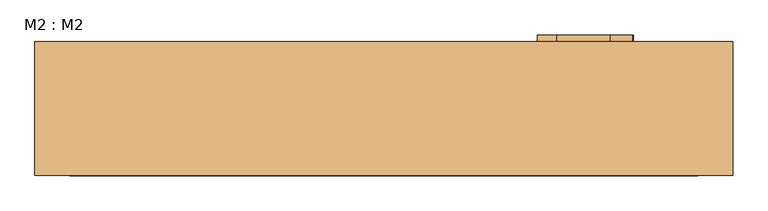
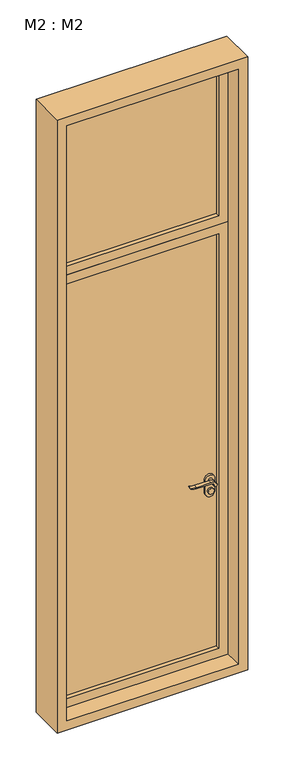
"""IFC4 building model written with IfcOpenShell, lengths in millimetres: door geometry, M2 : M2."""

import ifcopenshell
import ifcopenshell.guid

model = None  # the IFC model being written
_history = None  # IfcOwnerHistory: only IFC2X3 demands one
_inside = {}  # id of a spatial element -> (the spatial element, [elements in it])
_under = {}  # id of a project, library or spatial element -> (it, [spatial elements below it])
_declared = {}  # id of a project -> (the project, [libraries it declares])
_typed = {}  # id of a type object -> (the type object, [elements of that type])
_made_of = {}  # id of a material, layer set ... -> (it, [elements and type objects made of it])


def new_model(schema):
    """Start an empty IFC model of exactly this schema.

    Asked for "IFC4X3", IfcOpenShell would pick the latest addendum, in which some entities
    have other attributes; the version numbers below select the first issue.
    IFC2X3 requires an IfcOwnerHistory on every rooted entity: one is made here for all.
    """
    global model, _history
    if schema == "IFC4X3":
        model = ifcopenshell.file(schema_version=(4, 3, 0, 0))
    else:
        model = ifcopenshell.file(schema=schema)
    _inside.clear()
    _under.clear()
    _declared.clear()
    _typed.clear()
    _made_of.clear()
    _history = None
    if model.schema == "IFC2X3":
        org = make("IfcOrganization", Name="unknown")
        user = make(
            "IfcPersonAndOrganization",
            ThePerson=make("IfcPerson", FamilyName="unknown"),
            TheOrganization=org,
        )
        app = make(
            "IfcApplication",
            ApplicationDeveloper=org,
            Version="unknown",
            ApplicationFullName="unknown",
            ApplicationIdentifier="unknown",
        )
        _history = make(
            "IfcOwnerHistory",
            OwningUser=user,
            OwningApplication=app,
            ChangeAction="ADDED",
            CreationDate=0,
        )
    return model


def make(cls, **values):
    """One entity of the class cls with the attributes given. An attribute that is None is left unset."""
    return model.create_entity(
        cls, **{name: value for name, value in values.items() if value is not None}
    )


def rooted(cls, **values):
    """An entity with a GlobalId (a new one), such as an element, a storey or a relation."""
    return make(cls, GlobalId=ifcopenshell.guid.new(), OwnerHistory=_history, **values)


def si_unit(unit_type, name, prefix=None):
    """IfcSIUnit, for example si_unit("LENGTHUNIT", "METRE", prefix="MILLI")."""
    return make("IfcSIUnit", UnitType=unit_type, Prefix=prefix, Name=name)


def assignment(units):
    """IfcUnitAssignment: the units of a project."""
    return None if units is None else make("IfcUnitAssignment", Units=units)


def point(xyz):
    """IfcCartesianPoint."""
    return None if xyz is None else make("IfcCartesianPoint", Coordinates=xyz)


def direction(xyz):
    """IfcDirection."""
    return None if xyz is None else make("IfcDirection", DirectionRatios=xyz)


def frame(location, z_axis=None, x_axis=None):
    """IfcAxis2Placement3D, a coordinate frame: its origin and axes. An axis left out is left unset."""
    return make(
        "IfcAxis2Placement3D",
        Location=point(location),
        Axis=direction(z_axis),
        RefDirection=direction(x_axis),
    )


def frame_2d(location, x_axis=None):
    """IfcAxis2Placement2D, a coordinate frame in the plane: its origin and x axis."""
    return make(
        "IfcAxis2Placement2D", Location=point(location), RefDirection=direction(x_axis)
    )


def origin():
    """The frame at (0, 0, 0) with its axes left unset."""
    return frame((0.0, 0.0, 0.0))


def place(relative_to, where):
    """IfcLocalPlacement: puts the frame where relative to a parent placement (None: the world)."""
    return make(
        "IfcLocalPlacement", PlacementRelTo=relative_to, RelativePlacement=where
    )


def context(
    kind, dimensions, precision=None, world=None, true_north=None, identifier=None
):
    """IfcGeometricRepresentationContext, for example the 3D "Model" context."""
    return make(
        "IfcGeometricRepresentationContext",
        ContextIdentifier=identifier,
        ContextType=kind,
        CoordinateSpaceDimension=dimensions,
        Precision=precision,
        WorldCoordinateSystem=world,
        TrueNorth=true_north,
    )


def project(units=None, contexts=None):
    """IfcProject with its units and contexts."""
    return rooted(
        "IfcProject",
        Name="project",
        RepresentationContexts=contexts,
        UnitsInContext=assignment(units),
    )


def spatial(cls, under=None, at=None, **own):
    """A site, building, storey or space (cls), placed at a placement, below another one or the project."""
    s = rooted(cls, ObjectPlacement=at, **own)
    if under is not None:
        _under.setdefault(under.id(), (under, []))[1].append(s)
    return s


def polyline(points):
    """IfcPolyline through the points."""
    return make("IfcPolyline", Points=[point(p) for p in points])


def circle_curve(where, radius):
    """IfcCircle in the frame where."""
    return make("IfcCircle", Position=where, Radius=radius)


def trimmed(basis, trim1, trim2, sense, master):
    """IfcTrimmedCurve: the piece of a basis curve between two trims."""
    return make(
        "IfcTrimmedCurve",
        BasisCurve=basis,
        Trim1=trim1,
        Trim2=trim2,
        SenseAgreement=sense,
        MasterRepresentation=master,
    )


def segment(curve, same_sense, transition):
    """IfcCompositeCurveSegment."""
    return make(
        "IfcCompositeCurveSegment",
        Transition=transition,
        SameSense=same_sense,
        ParentCurve=curve,
    )


def composite_curve(segments, self_intersect=None):
    """IfcCompositeCurve: segments joined end to end."""
    return make("IfcCompositeCurve", Segments=segments, SelfIntersect=self_intersect)


def outline(outer, holes=None, kind="AREA"):
    """IfcArbitraryClosedProfileDef: a profile drawn as a closed curve; with holes, ...WithVoids."""
    if holes is None:
        return make("IfcArbitraryClosedProfileDef", ProfileType=kind, OuterCurve=outer)
    return make(
        "IfcArbitraryProfileDefWithVoids",
        ProfileType=kind,
        OuterCurve=outer,
        InnerCurves=holes,
    )


def extrude(swept, where, along, depth):
    """IfcExtrudedAreaSolid: the profile swept, set in the frame where, extruded along a direction by depth."""
    return make(
        "IfcExtrudedAreaSolid",
        SweptArea=swept,
        Position=where,
        ExtrudedDirection=direction(along),
        Depth=depth,
    )


def shape(context_of_items, identifier, shape_type, items):
    """IfcShapeRepresentation: the items that make up one representation, for example the "Body"."""
    return make(
        "IfcShapeRepresentation",
        ContextOfItems=context_of_items,
        RepresentationIdentifier=identifier,
        RepresentationType=shape_type,
        Items=items,
    )


def source(mapping_origin, context_of_items, identifier, shape_type, items):
    """IfcRepresentationMap: a shape defined once, which mapped items show again and again."""
    return make(
        "IfcRepresentationMap",
        MappingOrigin=mapping_origin,
        MappedRepresentation=shape(context_of_items, identifier, shape_type, items),
    )


def transform(
    local_origin,
    x_axis=None,
    y_axis=None,
    z_axis=None,
    scale=None,
    scale2=None,
    scale3=None,
    uniform=True,
):
    """IfcCartesianTransformationOperator3D, or its non-uniform kind. x_axis, y_axis, z_axis: its Axis1, 2, 3."""
    if uniform:
        return make(
            "IfcCartesianTransformationOperator3D",
            Axis1=direction(x_axis),
            Axis2=direction(y_axis),
            LocalOrigin=point(local_origin),
            Scale=scale,
            Axis3=direction(z_axis),
        )
    return make(
        "IfcCartesianTransformationOperator3DnonUniform",
        Axis1=direction(x_axis),
        Axis2=direction(y_axis),
        LocalOrigin=point(local_origin),
        Scale=scale,
        Axis3=direction(z_axis),
        Scale2=scale2,
        Scale3=scale3,
    )


def mapped(mapping_source, mapping_target):
    """IfcMappedItem: shows the shape of a source again, moved by a transform."""
    return make(
        "IfcMappedItem", MappingSource=mapping_source, MappingTarget=mapping_target
    )


def made_of(thing, what):
    """Note that an element or type object is made of a material, layer set ...; save() writes the relation."""
    if what is not None:
        _made_of.setdefault(what.id(), (what, []))[1].append(thing)
    return thing


def element(
    cls,
    number,
    at=None,
    inside=None,
    cuts=None,
    type_object=None,
    material=None,
    context=None,
    identifier="Body",
    shape_type=None,
    held_by="IfcProductDefinitionShape",
    body=None,
    shapes=None,
    **own,
):
    """One element of the class cls, such as IfcWall. Its Tag is "e" and its number.

    at: its placement. inside: the storey or other place that contains it. cuts: it is an
    opening in that element (IfcRelVoidsElement). A single representation is given by context,
    identifier, shape_type and body (its items); several are given by shapes. held_by: the class
    of the entity that holds the representations. save() writes the other relations.
    """
    e = rooted(cls, Tag="e%d" % number, ObjectPlacement=at, **own)
    if body is not None:
        shapes = [shape(context, identifier, shape_type, body)]
    if shapes is not None:
        e.Representation = make(held_by, Representations=shapes)
    if inside is not None:
        _inside.setdefault(inside.id(), (inside, []))[1].append(e)
    if cuts is not None:
        rooted(
            "IfcRelVoidsElement", RelatingBuildingElement=cuts, RelatedOpeningElement=e
        )
    if type_object is not None:
        _typed.setdefault(type_object.id(), (type_object, []))[1].append(e)
    return made_of(e, material)


def aggregate(whole, parts):
    """IfcRelAggregates: a whole, such as a stair, and the parts it consists of."""
    return rooted("IfcRelAggregates", RelatingObject=whole, RelatedObjects=parts)


def save(model, path):
    """Write the relations noted so far, then the file.

    IfcRelAggregates (storeys below a building ...), IfcRelContainedInSpatialStructure (elements
    in a storey), IfcRelDefinesByType, IfcRelAssociatesMaterial and IfcRelDeclares: one each for
    every whole, place, type object, material and project.
    """
    for whole, parts in _under.values():
        aggregate(whole, parts)
    for where, things in _inside.values():
        rooted(
            "IfcRelContainedInSpatialStructure",
            RelatedElements=things,
            RelatingStructure=where,
        )
    for kind, things in _typed.values():
        rooted("IfcRelDefinesByType", RelatedObjects=things, RelatingType=kind)
    for what, things in _made_of.values():
        rooted("IfcRelAssociatesMaterial", RelatedObjects=things, RelatingMaterial=what)
    for by, libraries in _declared.values():
        rooted("IfcRelDeclares", RelatingContext=by, RelatedDefinitions=libraries)
    model.write(path)


def m2_m2_a1934b10(model_context):
    return source(origin(), model_context, "Body", "SweptSolid", [
        extrude(outline(composite_curve([segment(trimmed(circle_curve(frame_2d((1000.0, 350.0)), 15.0), [point((1000.0, 335.0))], [point((1000.0, 365.0))], False, "CARTESIAN"), True, "CONTINUOUS"), segment(trimmed(circle_curve(frame_2d((1000.0, 350.0)), 15.0), [point((1000.0, 365.0))], [point((1000.0, 335.0))], False, "CARTESIAN"), True, "CONTINUOUS")], self_intersect=False)), frame((0.0, 35.0, 0.0), z_axis=(0.0, 1.0, 0.0), x_axis=(0.0, 0.0, 1.0)), (0.0, 0.0, 1.0), 10.0),
        extrude(outline(composite_curve([segment(trimmed(circle_curve(frame_2d((1000.0, 350.0)), 15.0), [point((1000.0, 335.0))], [point((1000.0, 365.0))], False, "CARTESIAN"), True, "CONTINUOUS"), segment(trimmed(circle_curve(frame_2d((1000.0, 350.0)), 15.0), [point((1000.0, 365.0))], [point((1000.0, 335.0))], False, "CARTESIAN"), True, "CONTINUOUS")], self_intersect=False)), frame((0.0, -45.0, 0.0), z_axis=(0.0, 1.0, 0.0), x_axis=(0.0, 0.0, 1.0)), (0.0, 0.0, 1.0), 10.0),
        extrude(outline(composite_curve([segment(trimmed(circle_curve(frame_2d((1042.7555521, 326.3324871)), 37.2832219), [point((1064.6523287, 356.5081363))], [point((1080.0, 324.6325667))], False, "CARTESIAN"), True, "CONTINUOUS"), segment(polyline([(1080.0, 324.6325667), (1080.0, 248.3564091)]), True, "CONTINUOUS"), segment(trimmed(circle_curve(frame_2d((1163.2850638, 248.4227909)), 83.2850902), [point((1080.0, 248.3564091))], [point((1085.0, 220.0))], True, "CARTESIAN"), True, "CONTINUOUS"), segment(polyline([(1085.0, 220.0), (1082.2135558, 220.0)]), True, "CONTINUOUS"), segment(trimmed(circle_curve(frame_2d((1132.2709207, 251.9396612)), 59.3791355), [point((1082.2135558, 220.0))], [point((1073.0, 248.3564091))], False, "CARTESIAN"), True, "CONTINUOUS"), segment(polyline([(1073.0, 248.3564091), (1073.0, 324.6138099)]), True, "CONTINUOUS"), segment(trimmed(circle_curve(frame_2d((1054.8738613, 324.6138099)), 18.1261387), [point((1073.0, 324.6138099))], [point((1060.0, 342.0))], True, "CARTESIAN"), True, "CONTINUOUS"), segment(trimmed(circle_curve(frame_2d((1060.0, 350.0)), 8.0), [point((1060.0, 342.0))], [point((1064.6523287, 356.5081363))], False, "CARTESIAN"), True, "CONTINUOUS")], self_intersect=False)), frame((0.0, 65.0, 0.0), z_axis=(0.0, 1.0, 0.0), x_axis=(0.0, 0.0, 1.0)), (0.0, 0.0, 1.0), 20.0),
        extrude(outline(composite_curve([segment(trimmed(circle_curve(frame_2d((1060.0, 350.0)), 8.0), [point((1059.9999903, 342.0))], [point((1064.6523287, 356.5081363))], False, "CARTESIAN"), True, "CONTINUOUS"), segment(trimmed(circle_curve(frame_2d((1042.7555521, 326.3324871)), 37.2832219), [point((1064.6523287, 356.5081363))], [point((1080.0, 324.6325667))], False, "CARTESIAN"), True, "CONTINUOUS"), segment(polyline([(1080.0, 324.6325667), (1080.0, 248.3564091)]), True, "CONTINUOUS"), segment(trimmed(circle_curve(frame_2d((1163.2850638, 248.4227909)), 83.2850902), [point((1080.0, 248.3564091))], [point((1085.0, 220.0))], True, "CARTESIAN"), True, "CONTINUOUS"), segment(polyline([(1085.0, 220.0), (1082.2135558, 220.0)]), True, "CONTINUOUS"), segment(trimmed(circle_curve(frame_2d((1132.2709207, 251.9396612)), 59.3791355), [point((1082.2135558, 220.0))], [point((1073.0, 248.3564091))], False, "CARTESIAN"), True, "CONTINUOUS"), segment(polyline([(1073.0, 248.3564091), (1073.0, 324.6138122)]), True, "CONTINUOUS"), segment(trimmed(circle_curve(frame_2d((1054.8738682, 324.6138122)), 18.1261318), [point((1073.0, 324.6138122))], [point((1059.9999903, 342.0))], True, "CARTESIAN"), True, "CONTINUOUS")], self_intersect=False)), frame((0.0, -85.0, 0.0), z_axis=(0.0, 1.0, 0.0), x_axis=(0.0, 0.0, 1.0)), (0.0, 0.0, 1.0), 20.0),
        extrude(outline(composite_curve([segment(trimmed(circle_curve(frame_2d((1060.0, 350.0)), 8.0), [point((1060.0, 342.0))], [point((1060.0, 358.0))], False, "CARTESIAN"), True, "CONTINUOUS"), segment(trimmed(circle_curve(frame_2d((1060.0, 350.0)), 8.0), [point((1060.0, 358.0))], [point((1060.0, 342.0))], False, "CARTESIAN"), True, "CONTINUOUS")], self_intersect=False)), frame((0.0, 35.0, 0.0), z_axis=(0.0, 1.0, 0.0), x_axis=(0.0, 0.0, 1.0)), (0.0, 0.0, 1.0), 30.0),
        extrude(outline(composite_curve([segment(trimmed(circle_curve(frame_2d((1060.0, 350.0)), 8.0), [point((1060.0, 342.0))], [point((1060.0, 358.0))], False, "CARTESIAN"), True, "CONTINUOUS"), segment(trimmed(circle_curve(frame_2d((1060.0, 350.0)), 8.0), [point((1060.0, 358.0))], [point((1060.0, 342.0))], False, "CARTESIAN"), True, "CONTINUOUS")], self_intersect=False)), frame((0.0, -65.0, 0.0), z_axis=(0.0, 1.0, 0.0), x_axis=(0.0, 0.0, 1.0)), (0.0, 0.0, 1.0), 30.0),
        extrude(outline(composite_curve([segment(polyline([(990.0, 375.0), (1060.0, 375.0)]), True, "CONTINUOUS"), segment(trimmed(circle_curve(frame_2d((1060.0, 350.0)), 25.0), [point((1060.0, 375.0))], [point((1060.0, 325.0))], False, "CARTESIAN"), True, "CONTINUOUS"), segment(polyline([(1060.0, 325.0), (990.0, 325.0)]), True, "CONTINUOUS"), segment(trimmed(circle_curve(frame_2d((990.0, 350.0)), 25.0), [point((990.0, 325.0))], [point((990.0, 375.0))], False, "CARTESIAN"), True, "CONTINUOUS")], self_intersect=False)), frame((0.0, 25.0, 0.0), z_axis=(0.0, 1.0, 0.0), x_axis=(0.0, 0.0, 1.0)), (0.0, 0.0, 1.0), 10.0),
        extrude(outline(composite_curve([segment(polyline([(990.0, 375.0), (1060.0, 375.0)]), True, "CONTINUOUS"), segment(trimmed(circle_curve(frame_2d((1060.0, 350.0)), 25.0), [point((1060.0, 375.0))], [point((1060.0, 325.0))], False, "CARTESIAN"), True, "CONTINUOUS"), segment(polyline([(1060.0, 325.0), (990.0, 325.0)]), True, "CONTINUOUS"), segment(trimmed(circle_curve(frame_2d((990.0, 350.0)), 25.0), [point((990.0, 325.0))], [point((990.0, 375.0))], False, "CARTESIAN"), True, "CONTINUOUS")], self_intersect=False)), frame((0.0, -35.0, 0.0), z_axis=(0.0, 1.0, 0.0), x_axis=(0.0, 0.0, 1.0)), (0.0, 0.0, 1.0), 10.0),
        extrude(outline(polyline([(400.0, 5.2868922), (400.0, -4.7131078), (-400.0, -4.7131078), (-400.0, 5.2868922), (400.0, 5.2868922)])), frame((0.0, 0.0, 2500.0), z_axis=(0.0, 0.0, 1.0), x_axis=(1.0, 0.0, 0.0)), (0.0, 0.0, 1.0), 800.0),
        extrude(outline(polyline([(400.0, 5.2868922), (400.0, -4.7131078), (-400.0, -4.7131078), (-400.0, 5.2868922), (400.0, 5.2868922)])), frame((0.0, 0.0, 100.0), z_axis=(0.0, 0.0, 1.0), x_axis=(1.0, 0.0, 0.0)), (0.0, 0.0, 1.0), 2300.0),
        extrude(outline(polyline([(3350.0, 450.0), (3350.0, -450.0), (2450.0, -450.0), (2450.0, 450.0), (3350.0, 450.0)]), holes=[polyline([(3300.0, 400.0), (2500.0, 400.0), (2500.0, -400.0), (3300.0, -400.0), (3300.0, 400.0)])]), frame((0.0, -25.0, 0.0), z_axis=(0.0, 1.0, 0.0), x_axis=(0.0, 0.0, 1.0)), (0.0, 0.0, 1.0), 50.0),
        extrude(outline(polyline([(3400.0, 500.0), (3400.0, -500.0), (0.0, -500.0), (0.0, 500.0), (3400.0, 500.0)]), holes=[polyline([(3350.0, 450.0), (50.0, 450.0), (50.0, -450.0), (3350.0, -450.0), (3350.0, 450.0)])]), frame((0.0, -117.0, 0.0), z_axis=(0.0, 1.0, 0.0), x_axis=(0.0, 0.0, 1.0)), (0.0, 0.0, 1.0), 192.0),
        extrude(outline(polyline([(2450.0, 450.0), (2450.0, -450.0), (50.0, -450.0), (50.0, 450.0), (2450.0, 450.0)]), holes=[polyline([(2400.0, 400.0), (100.0, 400.0), (100.0, -400.0), (2400.0, -400.0), (2400.0, 400.0)])]), frame((0.0, -25.0, 0.0), z_axis=(0.0, 1.0, 0.0), x_axis=(0.0, 0.0, 1.0)), (0.0, 0.0, 1.0), 50.0),
    ])


if __name__ == "__main__":
    model = new_model("IFC4")
    model_context = context("Model", 3, world=origin())
    ifc_project = project(units=[si_unit("LENGTHUNIT", "METRE", prefix="MILLI")], contexts=[model_context])
    site = spatial("IfcSite", under=ifc_project)
    building = spatial("IfcBuilding", under=site)
    placement = place(None, origin())
    m2_m2_shape = m2_m2_a1934b10(model_context)
    element("IfcDoor", 1, ObjectType="M2 : M2", at=placement, inside=building, context=model_context, shape_type="MappedRepresentation", body=[
        mapped(m2_m2_shape, transform((0.0, 0.0, 0.0), x_axis=(1.0, 0.0, 0.0), y_axis=(0.0, 1.0, 0.0), z_axis=(0.0, 0.0, 1.0))),
    ])
    save(model, "model.ifc")
